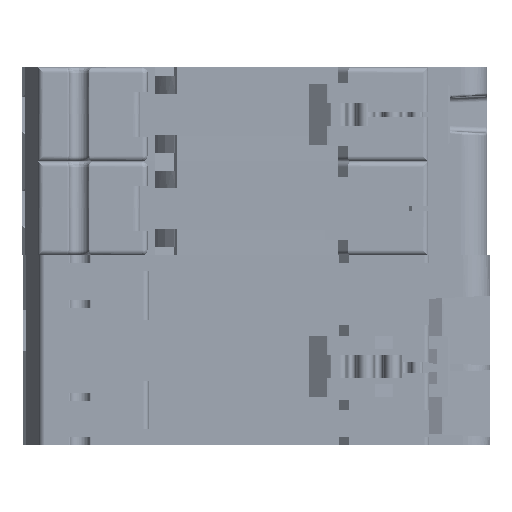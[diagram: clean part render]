
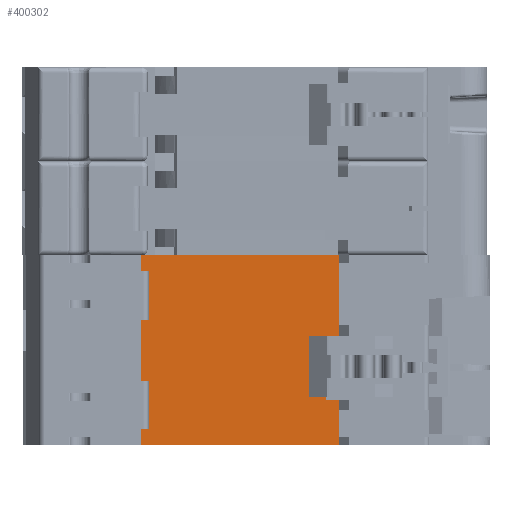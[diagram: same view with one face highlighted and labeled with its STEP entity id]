
A CAD part, front view. The second image highlights one B-rep face of the part: STEP entity #400302.
In plain terms, the highlighted planar face has unit normal (0, -1, 0).
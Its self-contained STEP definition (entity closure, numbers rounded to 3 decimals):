
#4284 = ORIENTED_EDGE ( 'NONE', *, *, #512521, .T. ) ;
#12273 = CARTESIAN_POINT ( 'NONE',  ( -21.916, -45.676, 7.1 ) ) ;
#25894 = VERTEX_POINT ( 'NONE', #182224 ) ;
#63800 = FACE_OUTER_BOUND ( 'NONE', #143086, .T. ) ;
#69310 = DIRECTION ( 'NONE',  ( -1., 0., 0. ) ) ;
#71286 = VERTEX_POINT ( 'NONE', #460757 ) ;
#71574 = VECTOR ( 'NONE', #386769, 1000. ) ;
#74261 = DIRECTION ( 'NONE',  ( 1., 0., 0. ) ) ;
#105075 = LINE ( 'NONE', #603132, #707554 ) ;
#106756 = DIRECTION ( 'NONE',  ( 0., 0., 1. ) ) ;
#108949 = ORIENTED_EDGE ( 'NONE', *, *, #738023, .F. ) ;
#109296 = LINE ( 'NONE', #311273, #730674 ) ;
#115544 = VERTEX_POINT ( 'NONE', #581153 ) ;
#119695 = VECTOR ( 'NONE', #434488, 1000. ) ;
#137231 = PLANE ( 'NONE',  #439986 ) ;
#139851 = DIRECTION ( 'NONE',  ( 0., 1., 0. ) ) ;
#143086 = EDGE_LOOP ( 'NONE', ( #4284, #108949, #430868, #502166, #613978, #525372, #508014, #499499 ) ) ;
#158242 = VERTEX_POINT ( 'NONE', #498869 ) ;
#182224 = CARTESIAN_POINT ( 'NONE',  ( 15.084, -45.676, -7.9 ) ) ;
#182671 = VERTEX_POINT ( 'NONE', #12273 ) ;
#183646 = DIRECTION ( 'NONE',  ( 1., 0., 0. ) ) ;
#237202 = VERTEX_POINT ( 'NONE', #243433 ) ;
#242918 = VERTEX_POINT ( 'NONE', #261650 ) ;
#243203 = EDGE_CURVE ( 'NONE', #182671, #242918, #297846, .T. ) ;
#243433 = CARTESIAN_POINT ( 'NONE',  ( -19.545, -45.676, 19.1 ) ) ;
#248200 = VECTOR ( 'NONE', #183646, 1000. ) ;
#261650 = CARTESIAN_POINT ( 'NONE',  ( -19.545, -45.676, 7.1 ) ) ;
#266045 = CARTESIAN_POINT ( 'NONE',  ( -21.916, -45.676, -7.9 ) ) ;
#269085 = VECTOR ( 'NONE', #365290, 1000. ) ;
#297846 = LINE ( 'NONE', #316277, #618006 ) ;
#301934 = CARTESIAN_POINT ( 'NONE',  ( -21.916, -45.676, 27.6 ) ) ;
#303193 = DIRECTION ( 'NONE',  ( 0., 0., -1. ) ) ;
#305580 = EDGE_CURVE ( 'NONE', #237202, #115544, #109296, .T. ) ;
#311273 = CARTESIAN_POINT ( 'NONE',  ( -21.916, -45.676, 19.1 ) ) ;
#316277 = CARTESIAN_POINT ( 'NONE',  ( -21.916, -45.676, 7.1 ) ) ;
#334712 = EDGE_CURVE ( 'NONE', #182671, #71286, #636281, .T. ) ;
#365290 = DIRECTION ( 'NONE',  ( 0., 0., -1. ) ) ;
#386769 = DIRECTION ( 'NONE',  ( 0., 0., -1. ) ) ;
#400302 = ADVANCED_FACE ( 'NONE', ( #63800 ), #137231, .F. ) ;
#430868 = ORIENTED_EDGE ( 'NONE', *, *, #677151, .F. ) ;
#434488 = DIRECTION ( 'NONE',  ( 1., 0., 0. ) ) ;
#439986 = AXIS2_PLACEMENT_3D ( 'NONE', #500296, #139851, #560754 ) ;
#460757 = CARTESIAN_POINT ( 'NONE',  ( -21.916, -45.676, -7.9 ) ) ;
#498869 = CARTESIAN_POINT ( 'NONE',  ( 15.084, -45.676, 27.6 ) ) ;
#499499 = ORIENTED_EDGE ( 'NONE', *, *, #334712, .T. ) ;
#500296 = CARTESIAN_POINT ( 'NONE',  ( -21.916, -45.676, 27.6 ) ) ;
#502166 = ORIENTED_EDGE ( 'NONE', *, *, #573972, .T. ) ;
#508014 = ORIENTED_EDGE ( 'NONE', *, *, #243203, .F. ) ;
#512521 = EDGE_CURVE ( 'NONE', #71286, #25894, #759887, .T. ) ;
#525372 = ORIENTED_EDGE ( 'NONE', *, *, #766625, .F. ) ;
#560754 = DIRECTION ( 'NONE',  ( -1., 0., 0. ) ) ;
#570359 = LINE ( 'NONE', #665220, #269085 ) ;
#573972 = EDGE_CURVE ( 'NONE', #679244, #115544, #570359, .T. ) ;
#578220 = LINE ( 'NONE', #769656, #700414 ) ;
#581153 = CARTESIAN_POINT ( 'NONE',  ( -21.916, -45.676, 19.1 ) ) ;
#603132 = CARTESIAN_POINT ( 'NONE',  ( 15.084, -45.676, 27.6 ) ) ;
#613978 = ORIENTED_EDGE ( 'NONE', *, *, #305580, .F. ) ;
#618006 = VECTOR ( 'NONE', #74261, 1000. ) ;
#626200 = CARTESIAN_POINT ( 'NONE',  ( -21.916, -45.676, 27.6 ) ) ;
#636281 = LINE ( 'NONE', #626200, #71574 ) ;
#665220 = CARTESIAN_POINT ( 'NONE',  ( -21.916, -45.676, 27.6 ) ) ;
#677151 = EDGE_CURVE ( 'NONE', #679244, #158242, #709467, .T. ) ;
#679244 = VERTEX_POINT ( 'NONE', #738457 ) ;
#700414 = VECTOR ( 'NONE', #106756, 1000. ) ;
#707554 = VECTOR ( 'NONE', #303193, 1000. ) ;
#709467 = LINE ( 'NONE', #301934, #248200 ) ;
#730674 = VECTOR ( 'NONE', #69310, 1000. ) ;
#738023 = EDGE_CURVE ( 'NONE', #158242, #25894, #105075, .T. ) ;
#738457 = CARTESIAN_POINT ( 'NONE',  ( -21.916, -45.676, 27.6 ) ) ;
#759887 = LINE ( 'NONE', #266045, #119695 ) ;
#766625 = EDGE_CURVE ( 'NONE', #242918, #237202, #578220, .T. ) ;
#769656 = CARTESIAN_POINT ( 'NONE',  ( -19.545, -45.676, 27.6 ) ) ;
